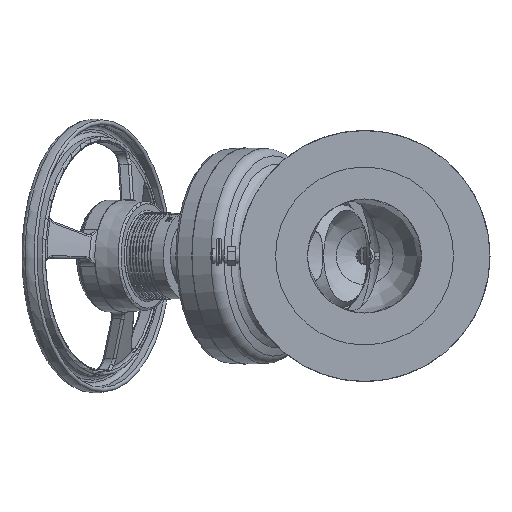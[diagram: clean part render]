
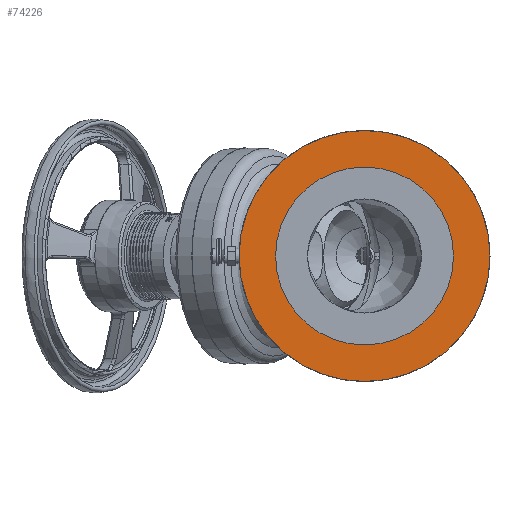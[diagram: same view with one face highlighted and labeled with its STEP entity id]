
A CAD part, left-side view. The second image highlights one B-rep face of the part: STEP entity #74226.
In plain terms, the highlighted planar face has unit normal (-1, 0, 0).
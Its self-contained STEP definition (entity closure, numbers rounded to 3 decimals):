
#70218=CARTESIAN_POINT('',(-345.,-110.,0.0));
#70219=VERTEX_POINT('',#70218);
#70220=CARTESIAN_POINT('',(-345.,0.,0.0));
#70221=DIRECTION('',(-1.0,0.0,0.0));
#70222=DIRECTION('',(0.0,-1.0,0.0));
#70223=AXIS2_PLACEMENT_3D('',#70220,#70221,#70222);
#70224=CIRCLE('',#70223,110.);
#70225=EDGE_CURVE('',#70219,#70219,#70224,.T.);
#74207=CARTESIAN_POINT('',(-345.,-94.,0.0));
#74208=DIRECTION('',(-1.0,0.0,0.0));
#74209=DIRECTION('',(0.0,0.0,1.0));
#74210=AXIS2_PLACEMENT_3D('',#74207,#74208,#74209);
#74211=PLANE('',#74210);
#74212=ORIENTED_EDGE('',*,*,#70225,.T.);
#74213=EDGE_LOOP('',(#74212));
#74214=FACE_OUTER_BOUND('',#74213,.T.);
#74215=CARTESIAN_POINT('',(-345.,-78.,0.0));
#74216=VERTEX_POINT('',#74215);
#74217=CARTESIAN_POINT('',(-345.,0.,0.0));
#74218=DIRECTION('',(-1.0,0.0,0.0));
#74219=DIRECTION('',(0.0,-1.0,0.0));
#74220=AXIS2_PLACEMENT_3D('',#74217,#74218,#74219);
#74221=CIRCLE('',#74220,78.);
#74222=EDGE_CURVE('',#74216,#74216,#74221,.T.);
#74223=ORIENTED_EDGE('',*,*,#74222,.F.);
#74224=EDGE_LOOP('',(#74223));
#74225=FACE_BOUND('',#74224,.T.);
#74226=ADVANCED_FACE('',(#74214,#74225),#74211,.T.);
